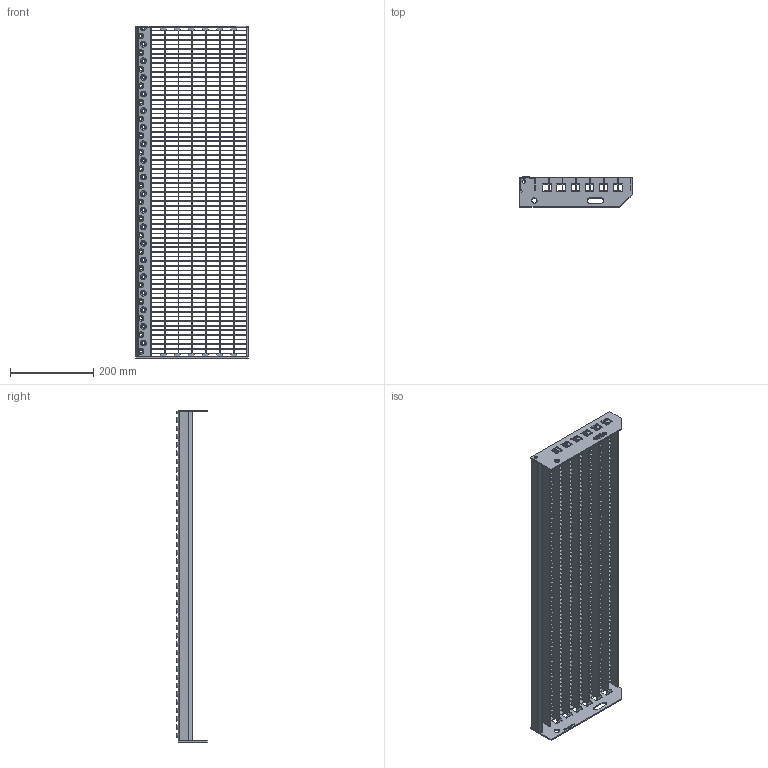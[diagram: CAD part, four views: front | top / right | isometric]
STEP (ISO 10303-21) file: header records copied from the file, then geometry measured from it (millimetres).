
FILE_DESCRIPTION(/* description */ ('','CAx-IF Rec.Pracs.---Representation and Presentation of Product Manufacturing Information (PMI)---3.8---2014-02-18'),/* implementation_level */ '2;1');
FILE_NAME(/* name */ 'C:\Users\phaverkotte\Desktop\Lager STEP\P-Stufen\P 230-33 11-2\P 230-33 11-2 800mm x 270mm.stp',/* time_stamp */ '2018-03-24T11:19:26+01:00',/* author */ ('phaverkotte'),/* organization */ (''),/* preprocessor_version */ 'ST-DEVELOPER v16.13',/* originating_system */ 'Autodesk Inventor 2018',/* authorisation */ '');
FILE_SCHEMA (('AP242_MANAGED_MODEL_BASED_3D_ENGINEERING_MIM_LF { 1 0 10303 442 1 1 4 }'));
Length unit declared in the file: millimetre
Products named in the file (8): Schodišťový stupeň přím
ý lisovaný; Seitenplatte ausgeklinkt links; Seitenplatte 240 ausgeklinkt extern rechts; Schod nášlap; P Rošt schodu; Querstab; P Nosný pás; Hinteres Flach
Assembly tree (83 placements, depth 3):
  Schodišťový stupeň přím
ý lisovaný
    Seitenplatte ausgeklinkt links
    Seitenplatte 240 ausgeklinkt extern rechts
    Schod nášlap
    P Rošt schodu
      Querstab  x71
      P Nosný pás  x7
      Hinteres Flach
Bounding box: 270.31 x 72.75 x 800 mm (x, y, z)
Volume: 844682.9 mm3; surface area: 950020.5 mm2
Topology: 82 solids, 82 shells, 3088 faces, 8611 edges, 5704 vertices
Faces by surface type: plane 2772, cylinder 132, cone 120, torus 40, bspline 24
Full cylindrical faces by diameter (mm): 8 x2, 13 x2
Entity records: 33285 total; most frequent: CARTESIAN_POINT 9220, DIRECTION 4750, ORIENTED_EDGE 4696, EDGE_CURVE 2348, LINE 1828, VECTOR 1828, VERTEX_POINT 1609, AXIS2_PLACEMENT_3D 1461
